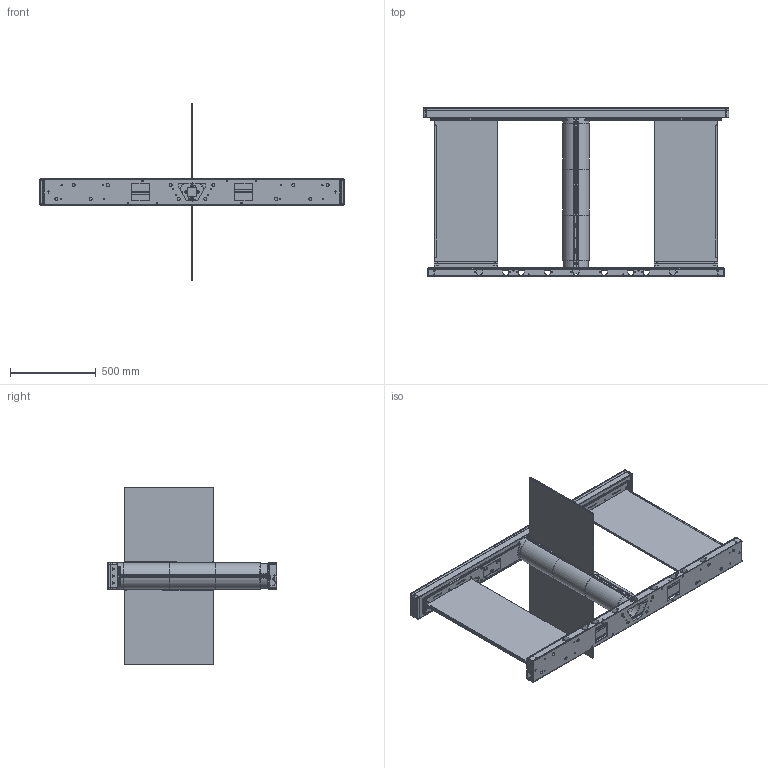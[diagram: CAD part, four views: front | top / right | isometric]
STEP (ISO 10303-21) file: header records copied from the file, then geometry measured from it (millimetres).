
FILE_DESCRIPTION (( 'STEP AP214' ), '1' );
FILE_NAME ('ユニ_センター【上付き：ワイド、下付き：ワイド】.STEP', '2023-02-27T04:05:31', ( 'cadcl' ), ( 'Hewlett-Packard Company' ), 'SwSTEP 2.0', 'SolidWorks 2022', '' );
FILE_SCHEMA (( 'AUTOMOTIVE_DESIGN' ));
Length unit declared in the file: millimetre
Products named in the file (56): Z03-00854-00; 201-06203-13; 201-06313-87; 201-06527-52; 201-06316-25; 201-06315-19; 201-06203-11; 201-06316-23; 201-06515-67; 201-06315-31; 201-06515-73; Z03-00734-00; 201-06315-00_デフォルト; 201-06527-58; 201-06515-69_上位アセンブリ用; 201-06515-68; 201-06204-73; 201-06313-33; ユニ_センター【上付き：ワイド、下付き：ワイド】; 201-06515-22_メイン閉扉・サブ閉扉; Z01-00599-00; 201-06527-55; 201-06515-71; 201-06316-62_施錠; 301-06197-01_施錠; 201-06315-66; 201-06527-42; 201-06515-84; 201-06527-41; 201-06527-43; 201-06315-67; 201-06316-63; 201-06515-70; 201-06210-58; 201-06315-02; 201-06316-64; 201-06515-74; 201-06203-56; 201-06203-15; 201-06226-36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
Assembly tree (131 placements, depth 4):
  ユニ_センター【上付き：ワイド、下付き：ワイド】
    201-06527-47
      201-06527-52
        201-06527-58
        201-06515-84
        201-06527-55
        Z01-00599-00  x10
      201-06316-06
        201-06313-33
      201-06316-62_施錠
        201-06316-63
        Z07-00047-00_かしめ４．１ｍｍ  x4
        301-06197-01_施錠
      201-06316-23  x2
        201-06210-58
      201-06316-25  x2
        201-06203-15
        201-06203-14
      201-06203-13  x2
      201-06203-16  x2
      201-06226-36
    201-06515-22_メイン閉扉・サブ閉扉
      201-06515-65
      201-06313-87
      201-06515-66  x2
        201-06515-67
        201-06527-41
      201-06527-42  x2
        201-06315-57
        201-06527-43
      201-06316-64
      201-06515-68
      201-06515-69_上位アセンブリ用  x2
        201-06515-70
      201-06515-71  x2
      201-06515-73  x2
      201-06515-74  x2
      Z01-00618-00  x18
      Z03-00854-00  x4
    201-06315-00_デフォルト
      201-06312-02
      201-06315-02  x2
        201-06315-66
        201-06204-73
        201-06203-11
      201-06315-04  x2
        201-06315-67
        201-06204-73
        201-06203-11
      201-06315-68  x2
      201-06315-69  x2
      Z03-00734-00  x19
      Z07-00042-00_２．３：２．３  x8
    201-06315-18  x2
      201-06315-19
    201-06315-31  x2
      201-06315-32
    201-06203-56  x2
Bounding box: 1780 x 985 x 1030 mm (x, y, z)
Volume: 17089265.9 mm3; surface area: 6817457.4 mm2
Topology: 123 solids, 123 shells, 4631 faces, 11684 edges, 7450 vertices
Faces by surface type: plane 2407, cylinder 1833, cone 237, torus 118, bspline 36
Entity records: 84114 total; most frequent: CARTESIAN_POINT 14927, DIRECTION 14327, ORIENTED_EDGE 13522, EDGE_CURVE 6761, AXIS2_PLACEMENT_3D 5056, VERTEX_POINT 4354, LINE 4215, VECTOR 4215
